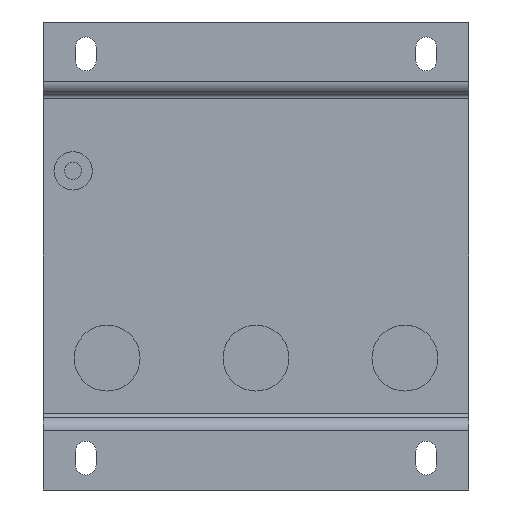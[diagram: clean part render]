
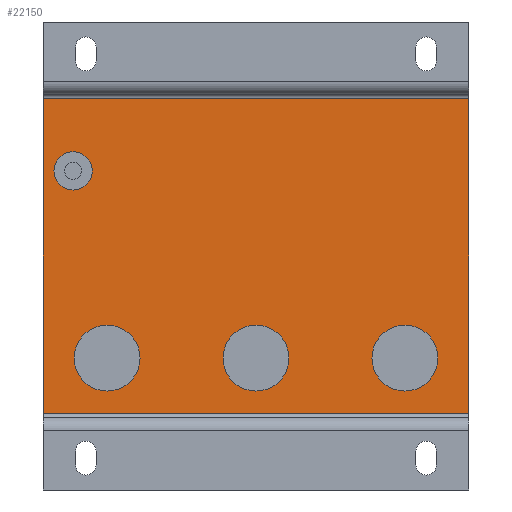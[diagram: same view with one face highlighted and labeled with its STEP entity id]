
A CAD part, front view. The second image highlights one B-rep face of the part: STEP entity #22150.
In plain terms, the highlighted planar face has unit normal (0, -1, 0).
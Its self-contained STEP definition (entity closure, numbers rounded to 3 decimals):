
#1 = DIRECTION ( 'NONE',  ( 0., -1., 0. ) ) ;
#103 = ORIENTED_EDGE ( 'NONE', *, *, #10867, .F. ) ;
#267 = AXIS2_PLACEMENT_3D ( 'NONE', #18732, #20905, #9644 ) ;
#387 = EDGE_CURVE ( 'NONE', #10520, #11643, #12626, .T. ) ;
#606 = AXIS2_PLACEMENT_3D ( 'NONE', #22375, #13381, #13263 ) ;
#608 = VECTOR ( 'NONE', #17716, 1000. ) ;
#656 = VERTEX_POINT ( 'NONE', #20708 ) ;
#901 = EDGE_CURVE ( 'NONE', #16132, #11500, #18391, .T. ) ;
#1111 = CARTESIAN_POINT ( 'NONE',  ( -50., 15., -63.65 ) ) ;
#1223 = CARTESIAN_POINT ( 'NONE',  ( -50., 15., -60.65 ) ) ;
#1231 = DIRECTION ( 'NONE',  ( -1., 0., 0. ) ) ;
#1937 = VERTEX_POINT ( 'NONE', #4294 ) ;
#2344 = DIRECTION ( 'NONE',  ( 0., -1., 0. ) ) ;
#2350 = AXIS2_PLACEMENT_3D ( 'NONE', #2613, #19228, #6098 ) ;
#2553 = FACE_BOUND ( 'NONE', #22469, .T. ) ;
#2613 = CARTESIAN_POINT ( 'NONE',  ( -35., 15., -47.65 ) ) ;
#2988 = AXIS2_PLACEMENT_3D ( 'NONE', #19045, #22781, #6155 ) ;
#3347 = CARTESIAN_POINT ( 'NONE',  ( 35., 15., -47.65 ) ) ;
#3479 = ORIENTED_EDGE ( 'NONE', *, *, #21441, .F. ) ;
#4196 = EDGE_CURVE ( 'NONE', #19526, #656, #23527, .T. ) ;
#4265 = CARTESIAN_POINT ( 'NONE',  ( -35., 15., -47.65 ) ) ;
#4294 = CARTESIAN_POINT ( 'NONE',  ( -35., 15., -55.4 ) ) ;
#4631 = AXIS2_PLACEMENT_3D ( 'NONE', #5644, #19990, #7668 ) ;
#4896 = AXIS2_PLACEMENT_3D ( 'NONE', #4265, #2344, #16561 ) ;
#5246 = ORIENTED_EDGE ( 'NONE', *, *, #387, .F. ) ;
#5352 = EDGE_CURVE ( 'NONE', #13917, #8344, #13285, .T. ) ;
#5417 = DIRECTION ( 'NONE',  ( 0., -1., 0. ) ) ;
#5575 = EDGE_LOOP ( 'NONE', ( #13862, #3479 ) ) ;
#5644 = CARTESIAN_POINT ( 'NONE',  ( 35., 15., -47.65 ) ) ;
#5725 = VERTEX_POINT ( 'NONE', #9020 ) ;
#5753 = CARTESIAN_POINT ( 'NONE',  ( 50., 15., -60.65 ) ) ;
#5797 = ORIENTED_EDGE ( 'NONE', *, *, #901, .T. ) ;
#6098 = DIRECTION ( 'NONE',  ( 0., 0., 1. ) ) ;
#6155 = DIRECTION ( 'NONE',  ( 0., 0., 1. ) ) ;
#6194 = CIRCLE ( 'NONE', #2350, 7.75 ) ;
#6502 = CARTESIAN_POINT ( 'NONE',  ( -35., 15., -39.9 ) ) ;
#6925 = DIRECTION ( 'NONE',  ( 0., 0., 1. ) ) ;
#7297 = CARTESIAN_POINT ( 'NONE',  ( -50., 15., 13.35 ) ) ;
#7436 = EDGE_CURVE ( 'NONE', #22794, #1937, #6194, .T. ) ;
#7443 = DIRECTION ( 'NONE',  ( 0., 0., 1. ) ) ;
#7668 = DIRECTION ( 'NONE',  ( 0., 0., 1. ) ) ;
#7809 = CARTESIAN_POINT ( 'NONE',  ( 0., 15., -55.4 ) ) ;
#8249 = EDGE_CURVE ( 'NONE', #656, #16132, #20981, .T. ) ;
#8342 = ORIENTED_EDGE ( 'NONE', *, *, #4196, .T. ) ;
#8344 = VERTEX_POINT ( 'NONE', #20115 ) ;
#8522 = FACE_BOUND ( 'NONE', #5575, .T. ) ;
#8647 = VECTOR ( 'NONE', #16318, 1000. ) ;
#8775 = ORIENTED_EDGE ( 'NONE', *, *, #8249, .T. ) ;
#9020 = CARTESIAN_POINT ( 'NONE',  ( 0., 15., -39.9 ) ) ;
#9067 = DIRECTION ( 'NONE',  ( 0., 0., 1. ) ) ;
#9644 = DIRECTION ( 'NONE',  ( 0., 0., 1. ) ) ;
#10064 = EDGE_CURVE ( 'NONE', #11643, #10520, #19696, .T. ) ;
#10198 = EDGE_CURVE ( 'NONE', #8344, #13917, #22391, .T. ) ;
#10520 = VERTEX_POINT ( 'NONE', #12963 ) ;
#10808 = ORIENTED_EDGE ( 'NONE', *, *, #10064, .F. ) ;
#10867 = EDGE_CURVE ( 'NONE', #5725, #17730, #20744, .T. ) ;
#11210 = VECTOR ( 'NONE', #1231, 1000. ) ;
#11215 = CARTESIAN_POINT ( 'NONE',  ( 50., 15., -60.65 ) ) ;
#11410 = CARTESIAN_POINT ( 'NONE',  ( -47.5, 15., -3.65 ) ) ;
#11500 = VERTEX_POINT ( 'NONE', #11783 ) ;
#11630 = FACE_BOUND ( 'NONE', #22805, .T. ) ;
#11643 = VERTEX_POINT ( 'NONE', #17521 ) ;
#11783 = CARTESIAN_POINT ( 'NONE',  ( 50., 15., 13.35 ) ) ;
#11989 = ORIENTED_EDGE ( 'NONE', *, *, #10198, .T. ) ;
#12330 = CARTESIAN_POINT ( 'NONE',  ( -50., 15., 13.35 ) ) ;
#12626 = CIRCLE ( 'NONE', #4631, 7.75 ) ;
#12963 = CARTESIAN_POINT ( 'NONE',  ( 35., 15., -55.4 ) ) ;
#13263 = DIRECTION ( 'NONE',  ( 0., 0., 1. ) ) ;
#13285 = CIRCLE ( 'NONE', #2988, 4.5 ) ;
#13381 = DIRECTION ( 'NONE',  ( 0., 1., 0. ) ) ;
#13862 = ORIENTED_EDGE ( 'NONE', *, *, #7436, .F. ) ;
#13917 = VERTEX_POINT ( 'NONE', #11410 ) ;
#14047 = CIRCLE ( 'NONE', #4896, 7.75 ) ;
#14064 = EDGE_CURVE ( 'NONE', #11500, #19526, #21455, .T. ) ;
#14434 = EDGE_LOOP ( 'NONE', ( #10808, #5246 ) ) ;
#14472 = ORIENTED_EDGE ( 'NONE', *, *, #14064, .T. ) ;
#15107 = AXIS2_PLACEMENT_3D ( 'NONE', #3347, #1, #6925 ) ;
#15326 = AXIS2_PLACEMENT_3D ( 'NONE', #18071, #5417, #7443 ) ;
#15327 = VECTOR ( 'NONE', #9067, 1000. ) ;
#15605 = AXIS2_PLACEMENT_3D ( 'NONE', #1111, #22783, #20860 ) ;
#16132 = VERTEX_POINT ( 'NONE', #5753 ) ;
#16318 = DIRECTION ( 'NONE',  ( 0., 0., -1. ) ) ;
#16561 = DIRECTION ( 'NONE',  ( 0., 0., 1. ) ) ;
#17492 = FACE_BOUND ( 'NONE', #14434, .T. ) ;
#17521 = CARTESIAN_POINT ( 'NONE',  ( 35., 15., -39.9 ) ) ;
#17716 = DIRECTION ( 'NONE',  ( 1., 0., 0. ) ) ;
#17730 = VERTEX_POINT ( 'NONE', #7809 ) ;
#18071 = CARTESIAN_POINT ( 'NONE',  ( 0., 15., -47.65 ) ) ;
#18391 = LINE ( 'NONE', #11215, #15327 ) ;
#18732 = CARTESIAN_POINT ( 'NONE',  ( 0., 15., -47.65 ) ) ;
#19045 = CARTESIAN_POINT ( 'NONE',  ( -43., 15., -3.65 ) ) ;
#19228 = DIRECTION ( 'NONE',  ( 0., -1., 0. ) ) ;
#19526 = VERTEX_POINT ( 'NONE', #7297 ) ;
#19696 = CIRCLE ( 'NONE', #15107, 7.75 ) ;
#19733 = EDGE_LOOP ( 'NONE', ( #8342, #8775, #5797, #14472 ) ) ;
#19990 = DIRECTION ( 'NONE',  ( 0., -1., 0. ) ) ;
#20040 = ORIENTED_EDGE ( 'NONE', *, *, #20085, .F. ) ;
#20085 = EDGE_CURVE ( 'NONE', #17730, #5725, #23561, .T. ) ;
#20115 = CARTESIAN_POINT ( 'NONE',  ( -38.5, 15., -3.65 ) ) ;
#20708 = CARTESIAN_POINT ( 'NONE',  ( -50., 15., -60.65 ) ) ;
#20744 = CIRCLE ( 'NONE', #15326, 7.75 ) ;
#20860 = DIRECTION ( 'NONE',  ( 0., 0., -1. ) ) ;
#20905 = DIRECTION ( 'NONE',  ( 0., -1., 0. ) ) ;
#20981 = LINE ( 'NONE', #1223, #608 ) ;
#21441 = EDGE_CURVE ( 'NONE', #1937, #22794, #14047, .T. ) ;
#21455 = LINE ( 'NONE', #12330, #11210 ) ;
#22150 = ADVANCED_FACE ( 'NONE', ( #2553, #8522, #11630, #17492, #23015 ), #22660, .F. ) ;
#22375 = CARTESIAN_POINT ( 'NONE',  ( -43., 15., -3.65 ) ) ;
#22391 = CIRCLE ( 'NONE', #606, 4.5 ) ;
#22469 = EDGE_LOOP ( 'NONE', ( #22523, #11989 ) ) ;
#22523 = ORIENTED_EDGE ( 'NONE', *, *, #5352, .T. ) ;
#22660 = PLANE ( 'NONE',  #15605 ) ;
#22781 = DIRECTION ( 'NONE',  ( 0., 1., 0. ) ) ;
#22783 = DIRECTION ( 'NONE',  ( 0., 1., 0. ) ) ;
#22794 = VERTEX_POINT ( 'NONE', #6502 ) ;
#22805 = EDGE_LOOP ( 'NONE', ( #103, #20040 ) ) ;
#23015 = FACE_OUTER_BOUND ( 'NONE', #19733, .T. ) ;
#23527 = LINE ( 'NONE', #23649, #8647 ) ;
#23561 = CIRCLE ( 'NONE', #267, 7.75 ) ;
#23649 = CARTESIAN_POINT ( 'NONE',  ( -50., 15., -60.65 ) ) ;
